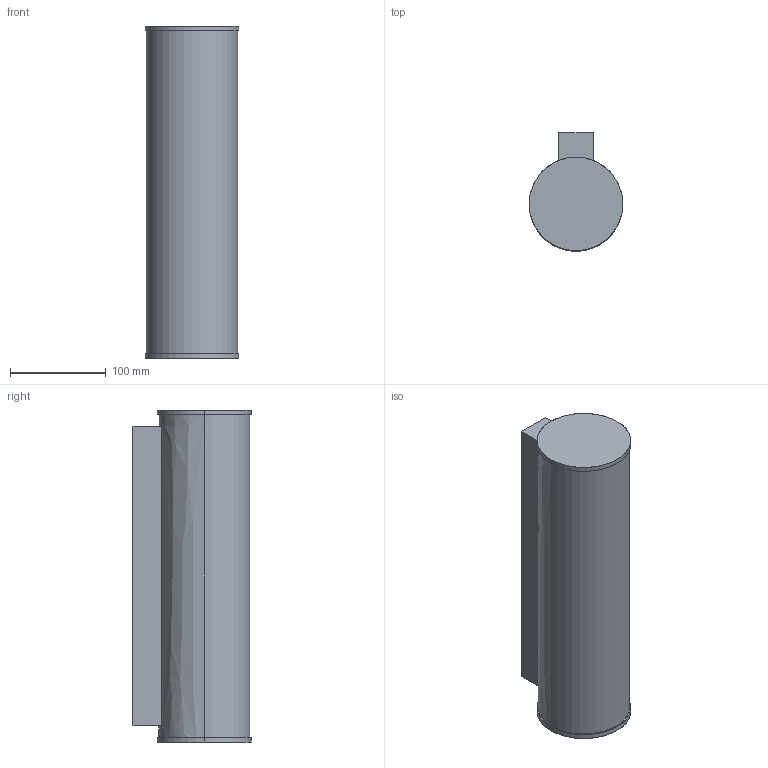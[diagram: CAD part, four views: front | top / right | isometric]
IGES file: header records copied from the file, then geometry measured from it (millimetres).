
Start section: SolidWorks IGES file using analytic representation for surfaces
Global section: file name: C:\Users\joaom\Desktop\02_3D.2D\01_2020\04_Safe\04_OS\01_OS\DWG_3D_OS_Saliente.IGS; native system: SolidWorks 2020; preprocessor: SolidWorks 2020; author: joaom; date: 201109.191011; units: millimetre
Bounding box: 97.5 x 123 x 346 mm (x, y, z)
Surface area: 139604 mm2 (no closed solid volume)
Topology: 0 solids, 0 shells, 15 faces, 446 edges, 446 vertices
Faces by surface type: bspline 9, revolution 6
